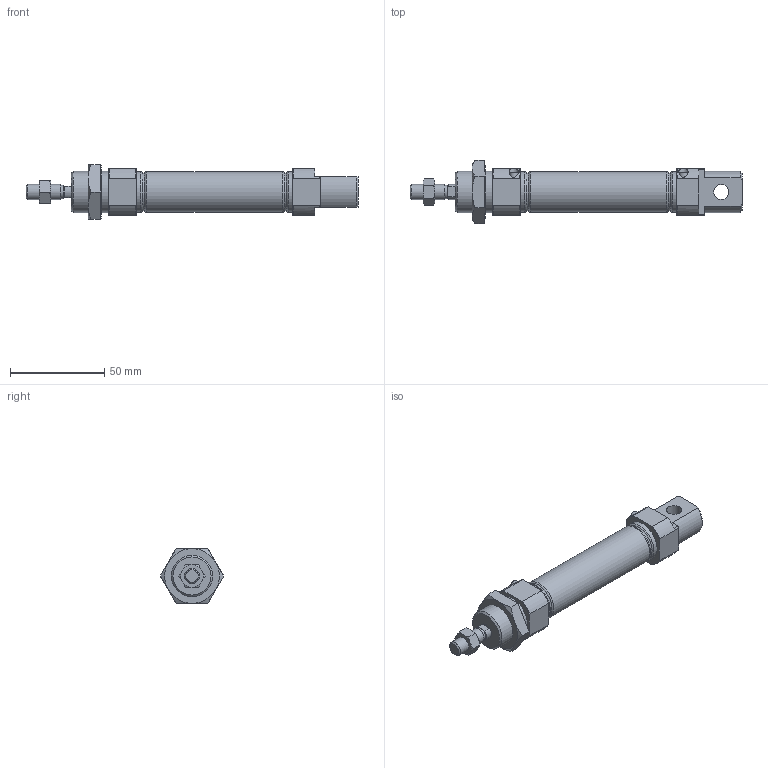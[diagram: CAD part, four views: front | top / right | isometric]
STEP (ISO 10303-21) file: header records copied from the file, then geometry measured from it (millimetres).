
FILE_DESCRIPTION(/* description */ ('STEP AP203'),/* implementation_level */ '2;1');
FILE_NAME(/* name */ 'IAC20X50-0-S()(0)',/* time_stamp */ '2026-05-17T11:46:57+02:00',/* author */ ('License CC BY-ND 4.0'),/* organization */ ('CADENAS'),/* preprocessor_version */ 'ST-DEVELOPER v20',/* originating_system */ 'PARTsolutions',/* authorisation */ ' ');
FILE_SCHEMA (('CONFIG_CONTROL_DESIGN'));
Length unit declared in the file: millimetre
Products named in the file (3): IAC20X50-0-S()(0); C20X50-CA-S()_ia_body; C20X50-0_rod
Assembly tree (2 placements, depth 2):
  IAC20X50-0-S()(0)
    C20X50-CA-S()_ia_body
    C20X50-0_rod
Bounding box: 176 x 33.49 x 29 mm (x, y, z)
Volume: 48724.6 mm3; surface area: 24833.5 mm2
Topology: 2 solids, 2 shells, 148 faces, 341 edges, 216 vertices
Faces by surface type: plane 63, cone 47, cylinder 32, torus 6
Full cylindrical faces by diameter (mm): 2 x1, 4.5 x2, 5 x2, 7.2 x1, 8 x6, 8.566 x2, 20 x2, 21.5 x3, 22 x2, 28 x1
Entity records: 4141 total; most frequent: CARTESIAN_POINT 953, DIRECTION 644, ORIENTED_EDGE 604, EDGE_CURVE 302, AXIS2_PLACEMENT_3D 277, VERTEX_POINT 210, EDGE_LOOP 202, FACE_BOUND 202
